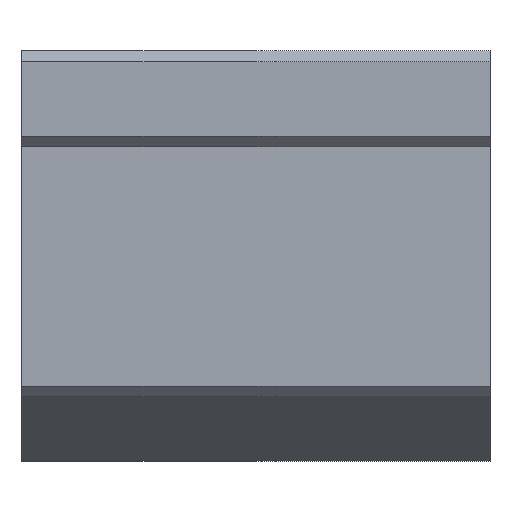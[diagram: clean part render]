
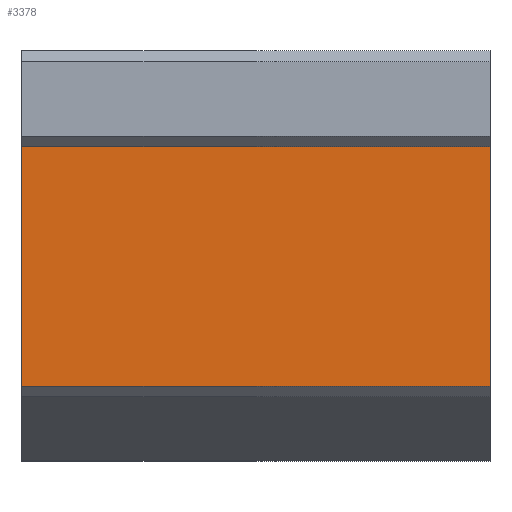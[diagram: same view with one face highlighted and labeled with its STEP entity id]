
A CAD part, top view. The second image highlights one B-rep face of the part: STEP entity #3378.
In plain terms, the highlighted planar face has unit normal (0, 0, 1).
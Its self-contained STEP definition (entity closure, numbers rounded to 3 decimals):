
#106 = PLANE('',#107);
#107 = AXIS2_PLACEMENT_3D('',#108,#109,#110);
#108 = CARTESIAN_POINT('',(22.,1.889,0.));
#109 = DIRECTION('',(1.,0.,0.));
#110 = DIRECTION('',(0.,0.,-1.));
#170 = PLANE('',#171);
#171 = AXIS2_PLACEMENT_3D('',#172,#173,#174);
#172 = CARTESIAN_POINT('',(-22.,1.889,0.));
#173 = DIRECTION('',(1.,0.,0.));
#174 = DIRECTION('',(0.,0.,-1.));
#3269 = PLANE('',#3270);
#3270 = AXIS2_PLACEMENT_3D('',#3271,#3272,#3273);
#3271 = CARTESIAN_POINT('',(-22.,-13.,23.5));
#3272 = DIRECTION('',(0.,-0.707,0.707)
  );
#3273 = DIRECTION('',(0.,-0.707,-0.707)
  );
#3307 = VERTEX_POINT('',#3308);
#3308 = CARTESIAN_POINT('',(22.,-12.5,24.));
#3329 = EDGE_CURVE('',#3330,#3307,#3332,.T.);
#3330 = VERTEX_POINT('',#3331);
#3331 = CARTESIAN_POINT('',(-22.,-12.5,24.));
#3332 = SURFACE_CURVE('',#3333,(#3337,#3344),.PCURVE_S1.);
#3333 = LINE('',#3334,#3335);
#3334 = CARTESIAN_POINT('',(-22.,-12.5,24.));
#3335 = VECTOR('',#3336,1.);
#3336 = DIRECTION('',(1.,0.,0.));
#3337 = PCURVE('',#3269,#3338);
#3338 = DEFINITIONAL_REPRESENTATION('',(#3339),#3343);
#3339 = LINE('',#3340,#3341);
#3340 = CARTESIAN_POINT('',(-0.707,0.));
#3341 = VECTOR('',#3342,1.);
#3342 = DIRECTION('',(0.,1.));
#3343 = ( GEOMETRIC_REPRESENTATION_CONTEXT(2) 
PARAMETRIC_REPRESENTATION_CONTEXT() REPRESENTATION_CONTEXT('2D SPACE',''
  ) );
#3344 = PCURVE('',#3345,#3350);
#3345 = PLANE('',#3346);
#3346 = AXIS2_PLACEMENT_3D('',#3347,#3348,#3349);
#3347 = CARTESIAN_POINT('',(-22.,-1.25,24.));
#3348 = DIRECTION('',(0.,0.,1.));
#3349 = DIRECTION('',(0.,-1.,0.));
#3350 = DEFINITIONAL_REPRESENTATION('',(#3351),#3355);
#3351 = LINE('',#3352,#3353);
#3352 = CARTESIAN_POINT('',(11.25,0.));
#3353 = VECTOR('',#3354,1.);
#3354 = DIRECTION('',(0.,1.));
#3355 = ( GEOMETRIC_REPRESENTATION_CONTEXT(2) 
PARAMETRIC_REPRESENTATION_CONTEXT() REPRESENTATION_CONTEXT('2D SPACE',''
  ) );
#3378 = ADVANCED_FACE('',(#3379),#3345,.T.);
#3379 = FACE_BOUND('',#3380,.T.);
#3380 = EDGE_LOOP('',(#3381,#3404,#3432,#3453));
#3381 = ORIENTED_EDGE('',*,*,#3382,.T.);
#3382 = EDGE_CURVE('',#3307,#3383,#3385,.T.);
#3383 = VERTEX_POINT('',#3384);
#3384 = CARTESIAN_POINT('',(22.,10.,24.));
#3385 = SURFACE_CURVE('',#3386,(#3390,#3397),.PCURVE_S1.);
#3386 = LINE('',#3387,#3388);
#3387 = CARTESIAN_POINT('',(22.,10.,24.));
#3388 = VECTOR('',#3389,1.);
#3389 = DIRECTION('',(0.,1.,0.));
#3390 = PCURVE('',#3345,#3391);
#3391 = DEFINITIONAL_REPRESENTATION('',(#3392),#3396);
#3392 = LINE('',#3393,#3394);
#3393 = CARTESIAN_POINT('',(-11.25,44.));
#3394 = VECTOR('',#3395,1.);
#3395 = DIRECTION('',(-1.,0.));
#3396 = ( GEOMETRIC_REPRESENTATION_CONTEXT(2) 
PARAMETRIC_REPRESENTATION_CONTEXT() REPRESENTATION_CONTEXT('2D SPACE',''
  ) );
#3397 = PCURVE('',#106,#3398);
#3398 = DEFINITIONAL_REPRESENTATION('',(#3399),#3403);
#3399 = LINE('',#3400,#3401);
#3400 = CARTESIAN_POINT('',(-24.,8.111));
#3401 = VECTOR('',#3402,1.);
#3402 = DIRECTION('',(0.,1.));
#3403 = ( GEOMETRIC_REPRESENTATION_CONTEXT(2) 
PARAMETRIC_REPRESENTATION_CONTEXT() REPRESENTATION_CONTEXT('2D SPACE',''
  ) );
#3404 = ORIENTED_EDGE('',*,*,#3405,.F.);
#3405 = EDGE_CURVE('',#3406,#3383,#3408,.T.);
#3406 = VERTEX_POINT('',#3407);
#3407 = CARTESIAN_POINT('',(-22.,10.,24.));
#3408 = SURFACE_CURVE('',#3409,(#3413,#3420),.PCURVE_S1.);
#3409 = LINE('',#3410,#3411);
#3410 = CARTESIAN_POINT('',(-22.,10.,24.));
#3411 = VECTOR('',#3412,1.);
#3412 = DIRECTION('',(1.,0.,0.));
#3413 = PCURVE('',#3345,#3414);
#3414 = DEFINITIONAL_REPRESENTATION('',(#3415),#3419);
#3415 = LINE('',#3416,#3417);
#3416 = CARTESIAN_POINT('',(-11.25,0.));
#3417 = VECTOR('',#3418,1.);
#3418 = DIRECTION('',(0.,1.));
#3419 = ( GEOMETRIC_REPRESENTATION_CONTEXT(2) 
PARAMETRIC_REPRESENTATION_CONTEXT() REPRESENTATION_CONTEXT('2D SPACE',''
  ) );
#3420 = PCURVE('',#3421,#3426);
#3421 = PLANE('',#3422);
#3422 = AXIS2_PLACEMENT_3D('',#3423,#3424,#3425);
#3423 = CARTESIAN_POINT('',(-22.,10.5,24.5));
#3424 = DIRECTION('',(0.,-0.707,0.707)
  );
#3425 = DIRECTION('',(0.,-0.707,-0.707)
  );
#3426 = DEFINITIONAL_REPRESENTATION('',(#3427),#3431);
#3427 = LINE('',#3428,#3429);
#3428 = CARTESIAN_POINT('',(0.707,0.));
#3429 = VECTOR('',#3430,1.);
#3430 = DIRECTION('',(0.,1.));
#3431 = ( GEOMETRIC_REPRESENTATION_CONTEXT(2) 
PARAMETRIC_REPRESENTATION_CONTEXT() REPRESENTATION_CONTEXT('2D SPACE',''
  ) );
#3432 = ORIENTED_EDGE('',*,*,#3433,.T.);
#3433 = EDGE_CURVE('',#3406,#3330,#3434,.T.);
#3434 = SURFACE_CURVE('',#3435,(#3439,#3446),.PCURVE_S1.);
#3435 = LINE('',#3436,#3437);
#3436 = CARTESIAN_POINT('',(-22.,10.,24.));
#3437 = VECTOR('',#3438,1.);
#3438 = DIRECTION('',(0.,-1.,0.));
#3439 = PCURVE('',#3345,#3440);
#3440 = DEFINITIONAL_REPRESENTATION('',(#3441),#3445);
#3441 = LINE('',#3442,#3443);
#3442 = CARTESIAN_POINT('',(-11.25,0.));
#3443 = VECTOR('',#3444,1.);
#3444 = DIRECTION('',(1.,0.));
#3445 = ( GEOMETRIC_REPRESENTATION_CONTEXT(2) 
PARAMETRIC_REPRESENTATION_CONTEXT() REPRESENTATION_CONTEXT('2D SPACE',''
  ) );
#3446 = PCURVE('',#170,#3447);
#3447 = DEFINITIONAL_REPRESENTATION('',(#3448),#3452);
#3448 = LINE('',#3449,#3450);
#3449 = CARTESIAN_POINT('',(-24.,8.111));
#3450 = VECTOR('',#3451,1.);
#3451 = DIRECTION('',(0.,-1.));
#3452 = ( GEOMETRIC_REPRESENTATION_CONTEXT(2) 
PARAMETRIC_REPRESENTATION_CONTEXT() REPRESENTATION_CONTEXT('2D SPACE',''
  ) );
#3453 = ORIENTED_EDGE('',*,*,#3329,.T.);
